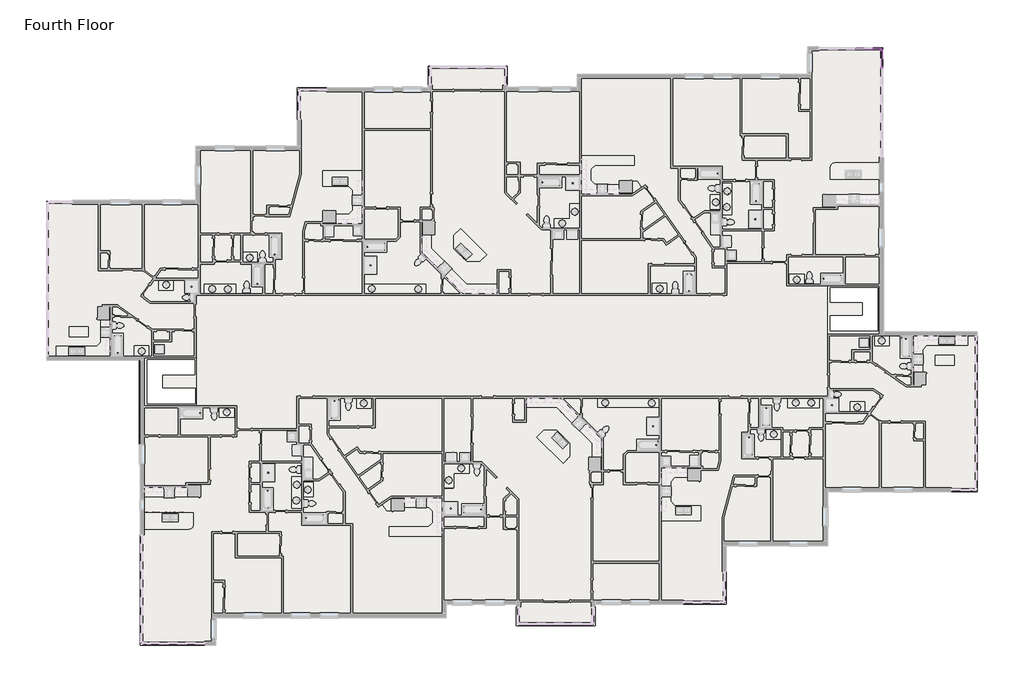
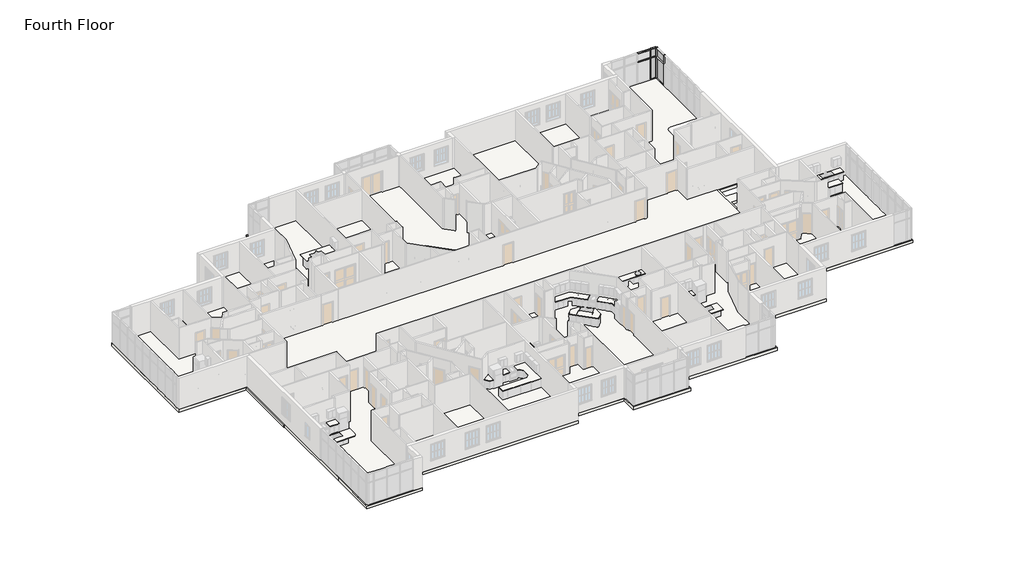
# One storey, part 13 of 17: 39 slabs, 13 members, 4 plates, 1 covering.
"""IFC4 building model written with IfcOpenShell, lengths in millimetres."""

from ifc_helpers import new_model, si_unit, point, frame, frame_2d, origin, place, context, project, spatial, polyline, circle_curve, trimmed, segment, composite_curve, outline, extrude, transform, mapped, element, save
from components import rectangular_mullion_rectangular_mullion_1_c1bf3533, rectangular_mullion_rectangular_mullion_1_fa3625a1, rectangular_mullion_rectangular_mullion_1_a50b3cda, rectangular_mullion_rectangular_mullion_1_5cd4c5ac, rectangular_mullion_rectangular_mullion_1_7cbf0b94, rectangular_mullion_rectangular_mullion_1_1da01dff, rectangular_mullion_rectangular_mullion_1_6186cc23, rectangular_mullion_rectangular_mullion_1_049a2e78, system_panel_glazed_53e6f9fb, system_panel_glazed_0e039939, system_panel_glazed_cb820e14, system_panel_glazed_5b288161

model = new_model("IFC4")

# Units and contexts
model_context = context("Model", 3, world=origin())
ifc_project = project(units=[si_unit("LENGTHUNIT", "METRE", prefix="MILLI")], contexts=[model_context])

# Site, building, storey
site = spatial("IfcSite", under=ifc_project)
building = spatial("IfcBuilding", under=site)
storey = spatial("IfcBuildingStorey", under=building, Name="Fourth Floor", Elevation=9144.0)

# Covering
placement = place(None, origin())
element("IfcCovering", 1, ObjectType="GWB on Furring", at=placement, inside=storey, context=model_context, shape_type="SweptSolid", body=[
    extrude(outline(polyline([(612.3831159, 8571.3427849), (10823.1831159, 8571.3427849), (10823.1831159, 12228.9427849), (17678.8246608, 12228.9427849), (17678.8246608, 16206.4791823), (26561.7198571, 16206.4791823), (26561.7198571, 17658.2365339), (31636.4923474, 17658.2365339), (31636.4923474, 16286.6365339), (36665.6923474, 16286.6365339), (36665.6923474, 17048.6365339), (52298.3534229, 17048.6365339), (52298.3534229, 18983.9169819), (57200.5534229, 18983.9169819), (57200.5534229, -370.8512558), (63577.7712704, -370.8512558), (63577.7712704, -10909.4129097), (53368.0217107, -10909.4129097), (53368.0217107, -14589.2379097), (46452.5922255, -14589.2379097), (46452.5922255, -18527.8691587), (37601.4470292, -18527.8691587), (37601.4470292, -20097.9066587), (32579.8565643, -20097.9066587), (32579.8565643, -18477.0691587), (27605.5115862, -18477.0691587), (27605.5115862, -19494.2615506), (11891.8009633, -19494.2615506), (11891.8009633, -21333.0996067), (7087.7956159, -21333.0996067), (7087.7956159, -1965.631369), (612.3831159, -1965.631369), (612.3831159, 8571.3427849)]), holes=[polyline([(7156.0581159, -5294.5871067), (10683.583999, -5294.5871067), (10683.583999, -1902.131369), (7156.0581159, -1902.131369), (7156.0581159, -5294.5871067)]), polyline([(53506.5703872, 2888.2544819), (53506.5703872, -370.8512558), (57019.8087704, -370.8512558), (57019.8087704, 2888.2544819), (53506.5703872, 2888.2544819)])]), frame((0.0, 0.0, 9144.0), z_axis=(0.0, 0.0, 1.0), x_axis=(1.0, 0.0, 0.0)), (0.0, 0.0, 1.0), 31.75),
])

# Members
rectangular_mullion_rectangular_mullion_1_shape = rectangular_mullion_rectangular_mullion_1_c1bf3533(model_context)
element("IfcMember", 2, ObjectType="Rectangular Mullion : Rectangular Mullion 1", at=placement, inside=storey, context=model_context, shape_type="MappedRepresentation", body=[
    mapped(rectangular_mullion_rectangular_mullion_1_shape, transform((57092.6034229, 18983.9169819, 12192.0), x_axis=(0.0, 0.0, 1.0), y_axis=(0.0, -1.0, 0.0), z_axis=(1.0, 0.0, 0.0))),
])
rectangular_mullion_rectangular_mullion_1_2_shape = rectangular_mullion_rectangular_mullion_1_fa3625a1(model_context)
element("IfcMember", 3, ObjectType="Rectangular Mullion : Rectangular Mullion 1", at=placement, inside=storey, context=model_context, shape_type="MappedRepresentation", body=[
    mapped(rectangular_mullion_rectangular_mullion_1_2_shape, transform((56571.9034233, 18983.9169819, 12192.0), x_axis=(0.0, 0.0, 1.0), y_axis=(0.0, -1.0, 0.0), z_axis=(1.0, 0.0, 0.0))),
])
element("IfcMember", 4, ObjectType="Rectangular Mullion : Rectangular Mullion 1", at=placement, inside=storey, context=model_context, shape_type="MappedRepresentation", body=[
    mapped(rectangular_mullion_rectangular_mullion_1_2_shape, transform((57175.1534229, 18875.9669819, 9144.0), x_axis=(0.0, 0.0, -1.0), y_axis=(-1.0, 0.0, 0.0), z_axis=(0.0, 1.0, 0.0))),
])
element("IfcMember", 5, ObjectType="Rectangular Mullion : Rectangular Mullion 1", at=placement, inside=storey, context=model_context, shape_type="MappedRepresentation", body=[
    mapped(rectangular_mullion_rectangular_mullion_1_shape, transform((56635.4034233, 18983.9169819, 9144.0), x_axis=(0.0, 0.0, -1.0), y_axis=(0.0, -1.0, 0.0), z_axis=(-1.0, 0.0, 0.0))),
])
rectangular_mullion_rectangular_mullion_1_3_shape = rectangular_mullion_rectangular_mullion_1_a50b3cda(model_context)
element("IfcMember", 6, ObjectType="Rectangular Mullion : Rectangular Mullion 1", at=placement, inside=storey, context=model_context, shape_type="MappedRepresentation", body=[
    mapped(rectangular_mullion_rectangular_mullion_1_3_shape, transform((57156.1034229, 18983.9169819, 9144.0), x_axis=(1.0, 0.0, 0.0), y_axis=(0.0, -1.0, 0.0), z_axis=(0.0, 0.0, -1.0))),
])
rectangular_mullion_rectangular_mullion_1_4_shape = rectangular_mullion_rectangular_mullion_1_5cd4c5ac(model_context)
element("IfcMember", 7, ObjectType="Rectangular Mullion : Rectangular Mullion 1", at=placement, inside=storey, context=model_context, shape_type="MappedRepresentation", body=[
    mapped(rectangular_mullion_rectangular_mullion_1_4_shape, transform((57156.1034229, 18983.9169819, 11309.35), x_axis=(1.0, 0.0, 0.0), y_axis=(0.0, -1.0, 0.0), z_axis=(0.0, 0.0, -1.0))),
])
element("IfcMember", 8, ObjectType="Rectangular Mullion : Rectangular Mullion 1", at=placement, inside=storey, context=model_context, shape_type="MappedRepresentation", body=[
    mapped(rectangular_mullion_rectangular_mullion_1_4_shape, transform((57175.1534229, 18939.4669819, 12192.0), x_axis=(0.0, 1.0, 0.0), y_axis=(-1.0, 0.0, 0.0), z_axis=(0.0, 0.0, 1.0))),
])
element("IfcMember", 9, ObjectType="Rectangular Mullion : Rectangular Mullion 1", at=placement, inside=storey, context=model_context, shape_type="MappedRepresentation", body=[
    mapped(rectangular_mullion_rectangular_mullion_1_3_shape, transform((57175.1534229, 18939.4669819, 11309.35), x_axis=(0.0, 1.0, 0.0), y_axis=(-1.0, 0.0, 0.0), z_axis=(0.0, 0.0, 1.0))),
])
rectangular_mullion_rectangular_mullion_1_5_shape = rectangular_mullion_rectangular_mullion_1_7cbf0b94(model_context)
element("IfcMember", 10, ObjectType="Rectangular Mullion : Rectangular Mullion 1", at=placement, inside=storey, context=model_context, shape_type="MappedRepresentation", body=[
    mapped(rectangular_mullion_rectangular_mullion_1_5_shape, transform((56571.9034233, 18983.9169819, 11309.35), x_axis=(0.0, 0.0, 1.0), y_axis=(0.0, -1.0, 0.0), z_axis=(1.0, 0.0, 0.0))),
])
rectangular_mullion_rectangular_mullion_1_6_shape = rectangular_mullion_rectangular_mullion_1_1da01dff(model_context)
element("IfcMember", 11, ObjectType="Rectangular Mullion : Rectangular Mullion 1", at=placement, inside=storey, context=model_context, shape_type="MappedRepresentation", body=[
    mapped(rectangular_mullion_rectangular_mullion_1_6_shape, transform((57092.6034229, 18983.9169819, 11309.35), x_axis=(0.0, 0.0, 1.0), y_axis=(0.0, -1.0, 0.0), z_axis=(1.0, 0.0, 0.0))),
])
rectangular_mullion_rectangular_mullion_1_7_shape = rectangular_mullion_rectangular_mullion_1_6186cc23(model_context)
element("IfcMember", 12, ObjectType="Rectangular Mullion : Rectangular Mullion 1", at=placement, inside=storey, context=model_context, shape_type="MappedRepresentation", body=[
    mapped(rectangular_mullion_rectangular_mullion_1_7_shape, transform((56603.6534233, 18983.9169819, 9144.0), x_axis=(1.0, 0.0, 0.0), y_axis=(0.0, -1.0, 0.0), z_axis=(0.0, 0.0, -1.0))),
])
rectangular_mullion_rectangular_mullion_1_8_shape = rectangular_mullion_rectangular_mullion_1_049a2e78(model_context)
element("IfcMember", 13, ObjectType="Rectangular Mullion : Rectangular Mullion 1", at=placement, inside=storey, context=model_context, shape_type="MappedRepresentation", body=[
    mapped(rectangular_mullion_rectangular_mullion_1_8_shape, transform((56603.6534233, 18983.9169819, 11309.35), x_axis=(1.0, 0.0, 0.0), y_axis=(0.0, -1.0, 0.0), z_axis=(0.0, 0.0, -1.0))),
])
element("IfcMember", 14, ObjectType="Rectangular Mullion : Rectangular Mullion 1", at=placement, inside=storey, context=model_context, shape_type="MappedRepresentation", body=[
    mapped(rectangular_mullion_rectangular_mullion_1_8_shape, transform((57175.1534229, 17688.5169816, 11309.35), x_axis=(0.0, -1.0, 0.0), y_axis=(-1.0, 0.0, 0.0), z_axis=(0.0, 0.0, -1.0))),
])

# Plates
system_panel_glazed_shape = system_panel_glazed_53e6f9fb(model_context)
element("IfcPlate", 15, ObjectType="System Panel : Glazed", at=placement, inside=storey, context=model_context, shape_type="MappedRepresentation", body=[
    mapped(system_panel_glazed_shape, transform((57175.1534229, 18298.1169818, 9207.5), x_axis=(0.0, -1.0, 0.0), y_axis=(1.0, 0.0, 0.0), z_axis=(0.0, 0.0, 1.0))),
])
system_panel_glazed_2_shape = system_panel_glazed_0e039939(model_context)
element("IfcPlate", 16, ObjectType="System Panel : Glazed", at=placement, inside=storey, context=model_context, shape_type="MappedRepresentation", body=[
    mapped(system_panel_glazed_2_shape, transform((56864.0034231, 18983.9169819, 9207.5), x_axis=(1.0, 0.0, 0.0), y_axis=(0.0, 1.0, 0.0), z_axis=(0.0, 0.0, 1.0))),
])
system_panel_glazed_3_shape = system_panel_glazed_cb820e14(model_context)
element("IfcPlate", 17, ObjectType="System Panel : Glazed", at=placement, inside=storey, context=model_context, shape_type="MappedRepresentation", body=[
    mapped(system_panel_glazed_3_shape, transform((57175.1534229, 18298.1169818, 11341.1), x_axis=(0.0, -1.0, 0.0), y_axis=(1.0, 0.0, 0.0), z_axis=(0.0, 0.0, 1.0))),
])
system_panel_glazed_4_shape = system_panel_glazed_5b288161(model_context)
element("IfcPlate", 18, ObjectType="System Panel : Glazed", at=placement, inside=storey, context=model_context, shape_type="MappedRepresentation", body=[
    mapped(system_panel_glazed_4_shape, transform((56864.0034231, 18983.9169819, 11341.1), x_axis=(1.0, 0.0, 0.0), y_axis=(0.0, 1.0, 0.0), z_axis=(0.0, 0.0, 1.0))),
])

# Slabs
element("IfcSlab", 19, ObjectType="Marble", at=placement, inside=storey, context=model_context, shape_type="SweptSolid", body=[
    extrude(outline(polyline([(50926.9744057, 3675.6544819), (51917.5744057, 3675.6544819), (51917.5744057, 3021.6044819), (50926.9744057, 3021.6044819), (50926.9744057, 3675.6544819)]), holes=[composite_curve([segment(trimmed(circle_curve(frame_2d((51422.2744057, 3320.0544819)), 203.2), [point((51219.0744057, 3320.0544819))], [point((51625.4744057, 3320.0544819))], True, "CARTESIAN"), True, "CONTINUOUS"), segment(trimmed(circle_curve(frame_2d((51422.2744057, 3320.0544819)), 203.2), [point((51625.4744057, 3320.0544819))], [point((51219.0744057, 3320.0544819))], True, "CARTESIAN"), True, "CONTINUOUS")], self_intersect=False)]), frame((0.0, 0.0, 9880.6), z_axis=(0.0, 0.0, 1.0), x_axis=(1.0, 0.0, 0.0)), (0.0, 0.0, 1.0), 38.1),
])
element("IfcSlab", 20, ObjectType="Marble", at=placement, inside=storey, context=model_context, shape_type="SweptSolid", body=[
    extrude(outline(polyline([(47019.1852525, 9841.9667096), (47019.1852525, 7708.3667096), (46371.4852525, 7708.3667096), (46371.4852525, 9841.9667096), (47019.1852525, 9841.9667096)]), holes=[composite_curve([segment(trimmed(circle_curve(frame_2d((46688.9852525, 8241.7667096)), 203.2), [point((46485.7852525, 8241.7667096))], [point((46892.1852525, 8241.7667096))], True, "CARTESIAN"), True, "CONTINUOUS"), segment(trimmed(circle_curve(frame_2d((46688.9852525, 8241.7667096)), 203.2), [point((46892.1852525, 8241.7667096))], [point((46485.7852525, 8241.7667096))], True, "CARTESIAN"), True, "CONTINUOUS")], self_intersect=False), composite_curve([segment(trimmed(circle_curve(frame_2d((46688.9852525, 9308.5667096)), 203.2), [point((46485.7852525, 9308.5667096))], [point((46892.1852525, 9308.5667096))], True, "CARTESIAN"), True, "CONTINUOUS"), segment(trimmed(circle_curve(frame_2d((46688.9852525, 9308.5667096)), 203.2), [point((46892.1852525, 9308.5667096))], [point((46485.7852525, 9308.5667096))], True, "CARTESIAN"), True, "CONTINUOUS")], self_intersect=False)]), frame((0.0, 0.0, 9880.6), z_axis=(0.0, 0.0, 1.0), x_axis=(1.0, 0.0, 0.0)), (0.0, 0.0, 1.0), 38.1),
])
element("IfcSlab", 21, ObjectType="Marble", at=placement, inside=storey, context=model_context, shape_type="SweptSolid", body=[
    extrude(outline(polyline([(37464.1178001, 10049.9225466), (37730.8178001, 9783.2225466), (37857.8178001, 9783.2225466), (37857.8178001, 9119.7410099), (36816.4178001, 9119.7410099), (36816.4178001, 11733.611548), (40399.3657184, 11733.611548), (40399.3657184, 11085.911548), (37746.5993369, 11085.911548), (37464.1178001, 10803.4300112), (37464.1178001, 10049.9225466)])), frame((0.0, 0.0, 10020.3), z_axis=(0.0, 0.0, 1.0), x_axis=(1.0, 0.0, 0.0)), (0.0, 0.0, 1.0), 38.1),
    extrude(outline(polyline([(39378.9347694, 9767.4410099), (39378.9347694, 9119.7410099), (38616.9347694, 9119.7410099), (38616.9347694, 9767.4410099), (39378.9347694, 9767.4410099)])), frame((0.0, 0.0, 10020.3), z_axis=(0.0, 0.0, 1.0), x_axis=(1.0, 0.0, 0.0)), (0.0, 0.0, 1.0), 38.1),
])
element("IfcSlab", 22, ObjectType="Marble", at=placement, inside=storey, context=model_context, shape_type="SweptSolid", body=[
    extrude(outline(polyline([(41626.0511183, 3064.2091714), (42616.6511183, 3064.2091714), (42616.6511183, 2391.1091714), (41626.0511183, 2391.1091714), (41626.0511183, 3064.2091714)]), holes=[composite_curve([segment(trimmed(circle_curve(frame_2d((42121.3511183, 2708.6091714)), 203.2), [point((41918.1511183, 2708.6091714))], [point((42324.5511183, 2708.6091714))], True, "CARTESIAN"), True, "CONTINUOUS"), segment(trimmed(circle_curve(frame_2d((42121.3511183, 2708.6091714)), 203.2), [point((42324.5511183, 2708.6091714))], [point((41918.1511183, 2708.6091714))], True, "CARTESIAN"), True, "CONTINUOUS")], self_intersect=False)]), frame((0.0, 0.0, 9880.6), z_axis=(0.0, 0.0, 1.0), x_axis=(1.0, 0.0, 0.0)), (0.0, 0.0, 1.0), 38.1),
])
element("IfcSlab", 23, ObjectType="Marble", at=placement, inside=storey, context=model_context, shape_type="SweptSolid", body=[
    extrude(outline(polyline([(34989.4572348, 6808.2918202), (34989.4572348, 7449.6418202), (36024.5072348, 7449.6418202), (36024.5072348, 8459.2918202), (36704.1794441, 8459.2918202), (36702.1178001, 6806.1559423), (34989.4572348, 6808.2918202)]), holes=[composite_curve([segment(trimmed(circle_curve(frame_2d((35526.0206512, 7126.8943672)), 203.2), [point((35729.2204932, 7126.6409544))], [point((35322.8208092, 7127.14778))], True, "CARTESIAN"), True, "CONTINUOUS"), segment(trimmed(circle_curve(frame_2d((35526.0206512, 7126.8943672)), 203.2), [point((35322.8208092, 7127.14778))], [point((35729.2204932, 7126.6409544))], True, "CARTESIAN"), True, "CONTINUOUS")], self_intersect=False), composite_curve([segment(trimmed(circle_curve(frame_2d((36367.6300654, 7922.506761)), 203.2), [point((36570.8299073, 7922.2533482))], [point((36164.4302234, 7922.7601737))], True, "CARTESIAN"), True, "CONTINUOUS"), segment(trimmed(circle_curve(frame_2d((36367.6300654, 7922.506761)), 203.2), [point((36164.4302234, 7922.7601737))], [point((36570.8299073, 7922.2533482))], True, "CARTESIAN"), True, "CONTINUOUS")], self_intersect=False)]), frame((0.0, 0.0, 9880.6), z_axis=(0.0, 0.0, 1.0), x_axis=(1.0, 0.0, 0.0)), (0.0, 0.0, 1.0), 38.1),
])
element("IfcSlab", 24, ObjectType="Marble", at=placement, inside=storey, context=model_context, shape_type="SweptSolid", body=[
    extrude(outline(polyline([(13837.7035557, 5166.0591714), (14828.3035557, 5166.0591714), (14828.3035557, 4492.9591714), (13837.7035557, 4492.9591714), (13837.7035557, 5166.0591714)]), holes=[composite_curve([segment(trimmed(circle_curve(frame_2d((14333.0035557, 4810.4591714)), 203.2), [point((14129.8035557, 4810.4591714))], [point((14536.2035557, 4810.4591714))], True, "CARTESIAN"), True, "CONTINUOUS"), segment(trimmed(circle_curve(frame_2d((14333.0035557, 4810.4591714)), 203.2), [point((14536.2035557, 4810.4591714))], [point((14129.8035557, 4810.4591714))], True, "CARTESIAN"), True, "CONTINUOUS")], self_intersect=False)]), frame((0.0, 0.0, 9880.6), z_axis=(0.0, 0.0, 1.0), x_axis=(1.0, 0.0, 0.0)), (0.0, 0.0, 1.0), 38.1),
])
element("IfcSlab", 25, ObjectType="Marble", at=placement, inside=storey, context=model_context, shape_type="SweptSolid", body=[
    extrude(outline(polyline([(6504.0261709, -1173.468869), (7494.6261709, -1173.468869), (7494.6261709, -1846.568869), (6504.0261709, -1846.568869), (6504.0261709, -1173.468869)]), holes=[composite_curve([segment(trimmed(circle_curve(frame_2d((6999.3261709, -1529.068869)), 203.2), [point((6796.1261709, -1529.068869))], [point((7202.5261708, -1529.068869))], True, "CARTESIAN"), True, "CONTINUOUS"), segment(trimmed(circle_curve(frame_2d((6999.3261709, -1529.068869)), 203.2), [point((7202.5261708, -1529.068869))], [point((6796.1261709, -1529.068869))], True, "CARTESIAN"), True, "CONTINUOUS")], self_intersect=False)]), frame((0.0, 0.0, 9880.6), z_axis=(0.0, 0.0, 1.0), x_axis=(1.0, 0.0, 0.0)), (0.0, 0.0, 1.0), 38.1),
])
element("IfcSlab", 26, ObjectType="Marble", at=placement, inside=storey, context=model_context, shape_type="SweptSolid", body=[
    extrude(outline(polyline([(9152.6629179, 2616.3624849), (8162.0629179, 2616.3624849), (8162.0629179, 3289.4624849), (9152.6629179, 3289.4624849), (9152.6629179, 2616.3624849)]), holes=[composite_curve([segment(trimmed(circle_curve(frame_2d((8657.3629179, 2971.9624849)), 203.2), [point((8860.5629179, 2971.9624849))], [point((8454.1629179, 2971.9624849))], True, "CARTESIAN"), True, "CONTINUOUS"), segment(trimmed(circle_curve(frame_2d((8657.3629179, 2971.9624849)), 203.2), [point((8454.1629179, 2971.9624849))], [point((8860.5629179, 2971.9624849))], True, "CARTESIAN"), True, "CONTINUOUS")], self_intersect=False)]), frame((0.0, 0.0, 9880.6), z_axis=(0.0, 0.0, 1.0), x_axis=(1.0, 0.0, 0.0)), (0.0, 0.0, 1.0), 38.1),
])
element("IfcSlab", 27, ObjectType="Marble", at=placement, inside=storey, context=model_context, shape_type="SweptSolid", body=[
    extrude(outline(polyline([(11250.0391694, 3007.0591714), (13383.6391694, 3007.0591714), (13383.6391694, 2359.3591714), (11250.0391694, 2359.3591714), (11250.0391694, 3007.0591714)]), holes=[composite_curve([segment(trimmed(circle_curve(frame_2d((12850.2391694, 2676.8591714)), 203.2), [point((12850.2391694, 2473.6591714))], [point((12850.2391694, 2880.0591714))], True, "CARTESIAN"), True, "CONTINUOUS"), segment(trimmed(circle_curve(frame_2d((12850.2391694, 2676.8591714)), 203.2), [point((12850.2391694, 2880.0591714))], [point((12850.2391694, 2473.6591714))], True, "CARTESIAN"), True, "CONTINUOUS")], self_intersect=False), composite_curve([segment(trimmed(circle_curve(frame_2d((11783.4391694, 2676.8591714)), 203.2), [point((11783.4391694, 2473.6591714))], [point((11783.4391694, 2880.0591714))], True, "CARTESIAN"), True, "CONTINUOUS"), segment(trimmed(circle_curve(frame_2d((11783.4391694, 2676.8591714)), 203.2), [point((11783.4391694, 2880.0591714))], [point((11783.4391694, 2473.6591714))], True, "CARTESIAN"), True, "CONTINUOUS")], self_intersect=False)]), frame((0.0, 0.0, 9880.6), z_axis=(0.0, 0.0, 1.0), x_axis=(1.0, 0.0, 0.0)), (0.0, 0.0, 1.0), 38.1),
])
element("IfcSlab", 28, ObjectType="Marble", at=placement, inside=storey, context=model_context, shape_type="SweptSolid", body=[
    extrude(outline(polyline([(45565.0352525, 8075.3578219), (45565.0352525, 9065.9578219), (46238.1352525, 9065.9578219), (46238.1352525, 8075.3578219), (45565.0352525, 8075.3578219)]), holes=[composite_curve([segment(trimmed(circle_curve(frame_2d((45920.6352525, 8570.6578219)), 203.2), [point((45920.6352525, 8367.4578219))], [point((45920.6352525, 8773.8578219))], True, "CARTESIAN"), True, "CONTINUOUS"), segment(trimmed(circle_curve(frame_2d((45920.6352525, 8570.6578219)), 203.2), [point((45920.6352525, 8773.8578219))], [point((45920.6352525, 8367.4578219))], True, "CARTESIAN"), True, "CONTINUOUS")], self_intersect=False)]), frame((0.0, 0.0, 9880.6), z_axis=(0.0, 0.0, 1.0), x_axis=(1.0, 0.0, 0.0)), (0.0, 0.0, 1.0), 38.1),
])
element("IfcSlab", 29, ObjectType="Marble", at=placement, inside=storey, context=model_context, shape_type="SweptSolid", body=[
    extrude(outline(polyline([(22080.2073571, 2360.472146), (22080.2073571, 2998.7524338), (26255.1289848, 2998.7524338), (26254.3264865, 2355.2665559), (22080.2073571, 2360.472146)]), holes=[composite_curve([segment(trimmed(circle_curve(frame_2d((25745.6467357, 2687.6122399)), 203.2), [point((25948.8465777, 2687.3588271))], [point((25542.4468937, 2687.8656527))], True, "CARTESIAN"), True, "CONTINUOUS"), segment(trimmed(circle_curve(frame_2d((25745.6467357, 2687.6122399)), 203.2), [point((25542.4468937, 2687.8656527))], [point((25948.8465777, 2687.3588271))], True, "CARTESIAN"), True, "CONTINUOUS")], self_intersect=False), composite_curve([segment(trimmed(circle_curve(frame_2d((22592.5961675, 2688.7367665)), 203.2), [point((22795.7960094, 2688.4833537))], [point((22389.3963255, 2688.9901793))], True, "CARTESIAN"), True, "CONTINUOUS"), segment(trimmed(circle_curve(frame_2d((22592.5961675, 2688.7367665)), 203.2), [point((22389.3963255, 2688.9901793))], [point((22795.7960094, 2688.4833537))], True, "CARTESIAN"), True, "CONTINUOUS")], self_intersect=False)]), frame((0.0, 0.0, 9880.6), z_axis=(0.0, 0.0, 1.0), x_axis=(1.0, 0.0, 0.0)), (0.0, 0.0, 1.0), 38.1),
])
element("IfcSlab", 30, ObjectType="Marble", at=placement, inside=storey, context=model_context, shape_type="SweptSolid", body=[
    extrude(outline(polyline([(28783.4392197, 2359.3591714), (27570.5233749, 3572.2750163), (28024.026309, 4025.7779504), (29049.0950879, 3000.7091714), (31107.0576897, 3000.7091714), (31107.0576897, 2359.3591714), (28783.4392197, 2359.3591714)])), frame((0.0, 0.0, 10020.3), z_axis=(0.0, 0.0, 1.0), x_axis=(1.0, 0.0, 0.0)), (0.0, 0.0, 1.0), 38.1),
])
element("IfcSlab", 31, ObjectType="Marble", at=placement, inside=storey, context=model_context, shape_type="SweptSolid", body=[
    extrude(outline(polyline([(28155.1545559, 6318.8980734), (28617.9568497, 6781.7003672), (30387.0673056, 5012.5899114), (29924.2650118, 4549.7876175), (29035.8578629, 4549.7876175), (28155.1545559, 5430.4909246), (28155.1545559, 6318.8980734)]), holes=[polyline([(28270.4282732, 5414.0000246), (29020.2863832, 4664.1419146), (29396.3907891, 5040.2463205), (28646.532679, 5790.1044305), (28270.4282732, 5414.0000246)])]), frame((0.0, 0.0, 10020.3), z_axis=(0.0, 0.0, 1.0), x_axis=(1.0, 0.0, 0.0)), (0.0, 0.0, 1.0), 38.1),
])
element("IfcSlab", 32, ObjectType="Marble", at=placement, inside=storey, context=model_context, shape_type="SweptSolid", body=[
    extrude(outline(polyline([(25998.6143708, 5154.0887964), (25998.6143708, 6373.2887964), (26639.9643708, 6373.2887964), (26639.9643708, 5431.1290346), (27499.5191999, 4571.5742055), (27040.3240808, 4112.3790864), (25998.6143708, 5154.0887964)])), frame((0.0, 0.0, 10020.3), z_axis=(0.0, 0.0, 1.0), x_axis=(1.0, 0.0, 0.0)), (0.0, 0.0, 1.0), 38.1),
])
element("IfcSlab", 33, ObjectType="Marble", at=placement, inside=storey, context=model_context, shape_type="SweptSolid", body=[
    extrude(outline(polyline([(2093.0864714, 129.9694727), (3375.7864714, 129.9694727), (3375.7864714, -543.1305273), (2093.0864714, -543.1305273), (2093.0864714, 129.9694727)])), frame((0.0, 0.0, 10020.3), z_axis=(0.0, 0.0, 1.0), x_axis=(1.0, 0.0, 0.0)), (0.0, 0.0, 1.0), 38.1),
])
element("IfcSlab", 34, ObjectType="Marble", at=placement, inside=storey, context=model_context, shape_type="SweptSolid", body=[
    extrude(outline(polyline([(4880.7003923, -1846.568869), (1191.3503923, -1846.568869), (1191.3503923, -1205.218869), (3957.3264687, -1205.218869), (4239.3503923, -923.1949454), (4239.3503923, -631.546226), (4880.7003923, -631.546226), (4880.7003923, -1846.568869)]), holes=[polyline([(3128.1003923, -1808.468869), (3128.1003923, -1275.068869), (2061.3003923, -1275.068869), (2061.3003923, -1808.468869), (3128.1003923, -1808.468869)])]), frame((0.0, 0.0, 10020.3), z_axis=(0.0, 0.0, 1.0), x_axis=(1.0, 0.0, 0.0)), (0.0, 0.0, 1.0), 38.1),
    extrude(outline(polyline([(4239.3503923, 131.5202225), (4239.3503923, 598.1185137), (4880.7003923, 598.1185137), (4880.7003923, 131.5202225), (4239.3503923, 131.5202225)])), frame((0.0, 0.0, 10020.3), z_axis=(0.0, 0.0, 1.0), x_axis=(1.0, 0.0, 0.0)), (0.0, 0.0, 1.0), 38.1),
])
element("IfcSlab", 35, ObjectType="Marble", at=placement, inside=storey, context=model_context, shape_type="SweptSolid", body=[
    extrude(outline(polyline([(20158.6042781, 7744.555075), (21038.3560765, 7744.555075), (21324.5573571, 8030.7563556), (21324.5573571, 8322.405075), (21972.2573571, 8322.405075), (21972.2573571, 7103.205075), (20158.6042781, 7103.205075), (20158.6042781, 7744.555075)])), frame((0.0, 0.0, 10020.3), z_axis=(0.0, 0.0, 1.0), x_axis=(1.0, 0.0, 0.0)), (0.0, 0.0, 1.0), 38.1),
    extrude(outline(polyline([(21044.7060765, 9655.905075), (19273.5073571, 9655.905075), (19273.5073571, 10697.0239484), (21972.2573571, 10697.0239484), (21972.2573571, 9084.405075), (21324.5573571, 9084.405075), (21324.5573571, 9376.0537944), (21044.7060765, 9655.905075)]), holes=[polyline([(20987.7427245, 10265.2239484), (19916.8560751, 10265.2239484), (19916.8560751, 9732.105075), (20987.7427245, 9732.105075), (20987.7427245, 10265.2239484)])]), frame((0.0, 0.0, 10020.3), z_axis=(0.0, 0.0, 1.0), x_axis=(1.0, 0.0, 0.0)), (0.0, 0.0, 1.0), 38.1),
])
element("IfcSlab", 36, ObjectType="Marble", at=placement, inside=storey, context=model_context, shape_type="SweptSolid", body=[
    extrude(outline(polyline([(40262.8543604, 10000.5110724), (40587.2272521, 10000.5110724), (40887.9989359, 9570.9645917), (40262.8543604, 9133.2336474), (40262.8543604, 10000.5110724)])), frame((0.0, 0.0, 10020.3), z_axis=(0.0, 0.0, 1.0), x_axis=(1.0, 0.0, 0.0)), (0.0, 0.0, 1.0), 38.1),
])
element("IfcSlab", 37, ObjectType="Marble", at=placement, inside=storey, context=model_context, shape_type="SweptSolid", body=[
    extrude(outline(composite_curve([segment(polyline([(7170.3456159, -12486.5347765), (10488.6061289, -12486.5347765), (10488.6061289, -13305.0808673)]), True, "CONTINUOUS"), segment(trimmed(circle_curve(frame_2d((10183.8061289, -13305.0808673)), 304.8), [point((10488.6061289, -13305.0808673))], [point((10180.1154029, -13609.8585216))], False, "CARTESIAN"), True, "CONTINUOUS"), segment(polyline([(10180.1154029, -13609.8585216), (7170.3456159, -13609.8585216), (7170.3456159, -12486.5347765)]), True, "CONTINUOUS")], self_intersect=False), holes=[polyline([(9469.7910491, -13082.6391551), (9469.7910491, -12555.3066357), (8402.0211605, -12555.3066357), (8402.0211605, -13082.6391551), (9469.7910491, -13082.6391551)])]), frame((0.0, 0.0, 10020.3), z_axis=(0.0, 0.0, 1.0), x_axis=(1.0, 0.0, 0.0)), (0.0, 0.0, 1.0), 38.1),
])
element("IfcSlab", 38, ObjectType="Marble", at=placement, inside=storey, context=model_context, shape_type="SweptSolid", body=[
    extrude(outline(polyline([(10127.0683728, -11419.8368662), (9246.0058728, -11419.8368662), (9246.0058728, -10794.1493344), (10127.0683728, -10794.1493344), (10127.0683728, -11419.8368662)])), frame((0.0, 0.0, 10020.3), z_axis=(0.0, 0.0, 1.0), x_axis=(1.0, 0.0, 0.0)), (0.0, 0.0, 1.0), 38.1),
    extrude(outline(polyline([(8484.0058728, -11419.8368662), (7175.9058728, -11419.8368662), (7175.9058728, -10772.1368662), (8484.0058728, -10772.1368662), (8484.0058728, -11419.8368662)])), frame((0.0, 0.0, 10020.3), z_axis=(0.0, 0.0, 1.0), x_axis=(1.0, 0.0, 0.0)), (0.0, 0.0, 1.0), 38.1),
])
element("IfcSlab", 39, ObjectType="Marble", at=placement, inside=storey, context=model_context, shape_type="SweptSolid", body=[
    extrude(outline(polyline([(13263.1799806, -6024.8371067), (12272.5799806, -6024.8371067), (12272.5799806, -5370.7871067), (13263.1799806, -5370.7871067), (13263.1799806, -6024.8371067)]), holes=[composite_curve([segment(trimmed(circle_curve(frame_2d((12767.8799806, -5669.2371067)), 203.2), [point((12971.0799806, -5669.2371067))], [point((12564.6799806, -5669.2371067))], True, "CARTESIAN"), True, "CONTINUOUS"), segment(trimmed(circle_curve(frame_2d((12767.8799806, -5669.2371067)), 203.2), [point((12564.6799806, -5669.2371067))], [point((12971.0799806, -5669.2371067))], True, "CARTESIAN"), True, "CONTINUOUS")], self_intersect=False)]), frame((0.0, 0.0, 9880.6), z_axis=(0.0, 0.0, 1.0), x_axis=(1.0, 0.0, 0.0)), (0.0, 0.0, 1.0), 38.1),
])
element("IfcSlab", 40, ObjectType="Marble", at=placement, inside=storey, context=model_context, shape_type="SweptSolid", body=[
    extrude(outline(polyline([(17170.9691338, -12191.1493344), (17170.9691338, -10057.5493344), (17818.6691338, -10057.5493344), (17818.6691338, -12191.1493344), (17170.9691338, -12191.1493344)]), holes=[composite_curve([segment(trimmed(circle_curve(frame_2d((17501.1691338, -10590.9493344)), 203.2), [point((17704.3691338, -10590.9493344))], [point((17297.9691338, -10590.9493344))], True, "CARTESIAN"), True, "CONTINUOUS"), segment(trimmed(circle_curve(frame_2d((17501.1691338, -10590.9493344)), 203.2), [point((17297.9691338, -10590.9493344))], [point((17704.3691338, -10590.9493344))], True, "CARTESIAN"), True, "CONTINUOUS")], self_intersect=False), composite_curve([segment(trimmed(circle_curve(frame_2d((17501.1691338, -11657.7493344)), 203.2), [point((17704.3691338, -11657.7493344))], [point((17297.9691338, -11657.7493344))], True, "CARTESIAN"), True, "CONTINUOUS"), segment(trimmed(circle_curve(frame_2d((17501.1691338, -11657.7493344)), 203.2), [point((17297.9691338, -11657.7493344))], [point((17704.3691338, -11657.7493344))], True, "CARTESIAN"), True, "CONTINUOUS")], self_intersect=False)]), frame((0.0, 0.0, 9880.6), z_axis=(0.0, 0.0, 1.0), x_axis=(1.0, 0.0, 0.0)), (0.0, 0.0, 1.0), 38.1),
])
element("IfcSlab", 41, ObjectType="Marble", at=placement, inside=storey, context=model_context, shape_type="SweptSolid", body=[
    extrude(outline(polyline([(26726.0365862, -12399.1051714), (26459.3365862, -12132.4051714), (26332.3365862, -12132.4051714), (26332.3365862, -11468.9236347), (27373.7365862, -11468.9236347), (27373.7365862, -14082.7941728), (23790.7886679, -14082.7941728), (23790.7886679, -13435.0941728), (26443.5550494, -13435.0941728), (26726.0365862, -13152.6126361), (26726.0365862, -12399.1051714)])), frame((0.0, 0.0, 10020.3), z_axis=(0.0, 0.0, 1.0), x_axis=(1.0, 0.0, 0.0)), (0.0, 0.0, 1.0), 38.1),
    extrude(outline(polyline([(24811.2196169, -12116.6236347), (24811.2196169, -11468.9236347), (25573.2196169, -11468.9236347), (25573.2196169, -12116.6236347), (24811.2196169, -12116.6236347)])), frame((0.0, 0.0, 10020.3), z_axis=(0.0, 0.0, 1.0), x_axis=(1.0, 0.0, 0.0)), (0.0, 0.0, 1.0), 38.1),
])
element("IfcSlab", 42, ObjectType="Marble", at=placement, inside=storey, context=model_context, shape_type="SweptSolid", body=[
    extrude(outline(polyline([(22564.103268, -5413.3917963), (21573.503268, -5413.3917963), (21573.503268, -4740.2917963), (22564.103268, -4740.2917963), (22564.103268, -5413.3917963)]), holes=[composite_curve([segment(trimmed(circle_curve(frame_2d((22068.803268, -5057.7917963)), 203.2), [point((22272.003268, -5057.7917963))], [point((21865.603268, -5057.7917963))], True, "CARTESIAN"), True, "CONTINUOUS"), segment(trimmed(circle_curve(frame_2d((22068.803268, -5057.7917963)), 203.2), [point((21865.603268, -5057.7917963))], [point((22272.003268, -5057.7917963))], True, "CARTESIAN"), True, "CONTINUOUS")], self_intersect=False)]), frame((0.0, 0.0, 9880.6), z_axis=(0.0, 0.0, 1.0), x_axis=(1.0, 0.0, 0.0)), (0.0, 0.0, 1.0), 38.1),
])
element("IfcSlab", 43, ObjectType="Marble", at=placement, inside=storey, context=model_context, shape_type="SweptSolid", body=[
    extrude(outline(polyline([(29200.6971515, -9157.474445), (29200.6971515, -9798.824445), (28165.6471515, -9798.824445), (28165.6471515, -10808.474445), (27485.9749422, -10808.474445), (27488.0365862, -9155.3385671), (29200.6971515, -9157.474445)]), holes=[composite_curve([segment(trimmed(circle_curve(frame_2d((28664.1337351, -9476.076992)), 203.2), [point((28460.9338931, -9475.8235793))], [point((28867.3335771, -9476.3304048))], True, "CARTESIAN"), True, "CONTINUOUS"), segment(trimmed(circle_curve(frame_2d((28664.1337351, -9476.076992)), 203.2), [point((28867.3335771, -9476.3304048))], [point((28460.9338931, -9475.8235793))], True, "CARTESIAN"), True, "CONTINUOUS")], self_intersect=False), composite_curve([segment(trimmed(circle_curve(frame_2d((27822.5243209, -10271.6893858)), 203.2), [point((27619.324479, -10271.435973))], [point((28025.7241629, -10271.9427985))], True, "CARTESIAN"), True, "CONTINUOUS"), segment(trimmed(circle_curve(frame_2d((27822.5243209, -10271.6893858)), 203.2), [point((28025.7241629, -10271.9427985))], [point((27619.324479, -10271.435973))], True, "CARTESIAN"), True, "CONTINUOUS")], self_intersect=False)]), frame((0.0, 0.0, 9880.6), z_axis=(0.0, 0.0, 1.0), x_axis=(1.0, 0.0, 0.0)), (0.0, 0.0, 1.0), 38.1),
])
element("IfcSlab", 44, ObjectType="Marble", at=placement, inside=storey, context=model_context, shape_type="SweptSolid", body=[
    extrude(outline(polyline([(50352.4508306, -7515.2417963), (49361.8508306, -7515.2417963), (49361.8508306, -6842.1417963), (50352.4508306, -6842.1417963), (50352.4508306, -7515.2417963)]), holes=[composite_curve([segment(trimmed(circle_curve(frame_2d((49857.1508306, -7159.6417963)), 203.2), [point((50060.3508306, -7159.6417963))], [point((49653.9508306, -7159.6417963))], True, "CARTESIAN"), True, "CONTINUOUS"), segment(trimmed(circle_curve(frame_2d((49857.1508306, -7159.6417963)), 203.2), [point((49653.9508306, -7159.6417963))], [point((50060.3508306, -7159.6417963))], True, "CARTESIAN"), True, "CONTINUOUS")], self_intersect=False)]), frame((0.0, 0.0, 9880.6), z_axis=(0.0, 0.0, 1.0), x_axis=(1.0, 0.0, 0.0)), (0.0, 0.0, 1.0), 38.1),
])
element("IfcSlab", 45, ObjectType="Marble", at=placement, inside=storey, context=model_context, shape_type="SweptSolid", body=[
    extrude(outline(polyline([(57686.1282154, -1175.7137558), (56695.5282154, -1175.7137558), (56695.5282154, -485.1512558), (57686.1282154, -485.1512558), (57686.1282154, -1175.7137558)]), holes=[composite_curve([segment(trimmed(circle_curve(frame_2d((57190.8282154, -820.1137558)), 203.2), [point((57394.0282154, -820.1137558))], [point((56987.6282154, -820.1137558))], True, "CARTESIAN"), True, "CONTINUOUS"), segment(trimmed(circle_curve(frame_2d((57190.8282154, -820.1137558)), 203.2), [point((56987.6282154, -820.1137558))], [point((57394.0282154, -820.1137558))], True, "CARTESIAN"), True, "CONTINUOUS")], self_intersect=False)]), frame((0.0, 0.0, 9880.6), z_axis=(0.0, 0.0, 1.0), x_axis=(1.0, 0.0, 0.0)), (0.0, 0.0, 1.0), 38.1),
])
element("IfcSlab", 46, ObjectType="Marble", at=placement, inside=storey, context=model_context, shape_type="SweptSolid", body=[
    extrude(outline(polyline([(55037.4914684, -4965.5451097), (56028.0914684, -4965.5451097), (56028.0914684, -5638.6451097), (55037.4914684, -5638.6451097), (55037.4914684, -4965.5451097)]), holes=[composite_curve([segment(trimmed(circle_curve(frame_2d((55532.7914684, -5321.1451097)), 203.2), [point((55329.5914684, -5321.1451097))], [point((55735.9914684, -5321.1451097))], True, "CARTESIAN"), True, "CONTINUOUS"), segment(trimmed(circle_curve(frame_2d((55532.7914684, -5321.1451097)), 203.2), [point((55735.9914684, -5321.1451097))], [point((55329.5914684, -5321.1451097))], True, "CARTESIAN"), True, "CONTINUOUS")], self_intersect=False)]), frame((0.0, 0.0, 9880.6), z_axis=(0.0, 0.0, 1.0), x_axis=(1.0, 0.0, 0.0)), (0.0, 0.0, 1.0), 38.1),
])
element("IfcSlab", 47, ObjectType="Marble", at=placement, inside=storey, context=model_context, shape_type="SweptSolid", body=[
    extrude(outline(polyline([(52940.1152169, -5356.2417963), (50806.5152169, -5356.2417963), (50806.5152169, -4708.5417963), (52940.1152169, -4708.5417963), (52940.1152169, -5356.2417963)]), holes=[composite_curve([segment(trimmed(circle_curve(frame_2d((51339.9152169, -5026.0417963)), 203.2), [point((51339.9152169, -4822.8417963))], [point((51339.9152169, -5229.2417963))], True, "CARTESIAN"), True, "CONTINUOUS"), segment(trimmed(circle_curve(frame_2d((51339.9152169, -5026.0417963)), 203.2), [point((51339.9152169, -5229.2417963))], [point((51339.9152169, -4822.8417963))], True, "CARTESIAN"), True, "CONTINUOUS")], self_intersect=False), composite_curve([segment(trimmed(circle_curve(frame_2d((52406.7152169, -5026.0417963)), 203.2), [point((52406.7152169, -4822.8417963))], [point((52406.7152169, -5229.2417963))], True, "CARTESIAN"), True, "CONTINUOUS"), segment(trimmed(circle_curve(frame_2d((52406.7152169, -5026.0417963)), 203.2), [point((52406.7152169, -5229.2417963))], [point((52406.7152169, -4822.8417963))], True, "CARTESIAN"), True, "CONTINUOUS")], self_intersect=False)]), frame((0.0, 0.0, 9880.6), z_axis=(0.0, 0.0, 1.0), x_axis=(1.0, 0.0, 0.0)), (0.0, 0.0, 1.0), 38.1),
])
element("IfcSlab", 48, ObjectType="Marble", at=placement, inside=storey, context=model_context, shape_type="SweptSolid", body=[
    extrude(outline(polyline([(18625.1191338, -10424.5404467), (18625.1191338, -11415.1404467), (17952.0191338, -11415.1404467), (17952.0191338, -10424.5404467), (18625.1191338, -10424.5404467)]), holes=[composite_curve([segment(trimmed(circle_curve(frame_2d((18269.5191338, -10919.8404467)), 203.2), [point((18269.5191338, -10716.6404467))], [point((18269.5191338, -11123.0404467))], True, "CARTESIAN"), True, "CONTINUOUS"), segment(trimmed(circle_curve(frame_2d((18269.5191338, -10919.8404467)), 203.2), [point((18269.5191338, -11123.0404467))], [point((18269.5191338, -10716.6404467))], True, "CARTESIAN"), True, "CONTINUOUS")], self_intersect=False)]), frame((0.0, 0.0, 9880.6), z_axis=(0.0, 0.0, 1.0), x_axis=(1.0, 0.0, 0.0)), (0.0, 0.0, 1.0), 38.1),
])
element("IfcSlab", 49, ObjectType="Marble", at=placement, inside=storey, context=model_context, shape_type="SweptSolid", body=[
    extrude(outline(polyline([(42109.9470292, -4709.6547708), (42109.9470292, -5347.9350586), (37935.0254015, -5347.9350586), (37935.8278998, -4704.4491807), (42109.9470292, -4709.6547708)]), holes=[composite_curve([segment(trimmed(circle_curve(frame_2d((38444.5076506, -5036.7948647)), 203.2), [point((38241.3078086, -5036.541452))], [point((38647.7074926, -5037.0482775))], True, "CARTESIAN"), True, "CONTINUOUS"), segment(trimmed(circle_curve(frame_2d((38444.5076506, -5036.7948647)), 203.2), [point((38647.7074926, -5037.0482775))], [point((38241.3078086, -5036.541452))], True, "CARTESIAN"), True, "CONTINUOUS")], self_intersect=False), composite_curve([segment(trimmed(circle_curve(frame_2d((41597.5582188, -5037.9193913)), 203.2), [point((41394.3583769, -5037.6659786))], [point((41800.7580608, -5038.1728041))], True, "CARTESIAN"), True, "CONTINUOUS"), segment(trimmed(circle_curve(frame_2d((41597.5582188, -5037.9193913)), 203.2), [point((41800.7580608, -5038.1728041))], [point((41394.3583769, -5037.6659786))], True, "CARTESIAN"), True, "CONTINUOUS")], self_intersect=False)]), frame((0.0, 0.0, 9880.6), z_axis=(0.0, 0.0, 1.0), x_axis=(1.0, 0.0, 0.0)), (0.0, 0.0, 1.0), 38.1),
])
element("IfcSlab", 50, ObjectType="Marble", at=placement, inside=storey, context=model_context, shape_type="SweptSolid", body=[
    extrude(outline(polyline([(35406.7151666, -4708.5417963), (36619.6310114, -5921.4576411), (36166.1280773, -6374.9605752), (35141.0592984, -5349.8917963), (33083.0966966, -5349.8917963), (33083.0966966, -4708.5417963), (35406.7151666, -4708.5417963)])), frame((0.0, 0.0, 10020.3), z_axis=(0.0, 0.0, 1.0), x_axis=(1.0, 0.0, 0.0)), (0.0, 0.0, 1.0), 38.1),
])
element("IfcSlab", 51, ObjectType="Marble", at=placement, inside=storey, context=model_context, shape_type="SweptSolid", body=[
    extrude(outline(polyline([(36034.9998304, -8668.0806982), (35572.1975365, -9130.882992), (33803.0870807, -7361.7725362), (34265.8893745, -6898.9702424), (35154.2965233, -6898.9702424), (36034.9998304, -7779.6735494), (36034.9998304, -8668.0806982)]), holes=[polyline([(35919.7261131, -7763.1826495), (35169.8680031, -7013.3245394), (34793.7635972, -7389.4289453), (35543.6217072, -8139.2870553), (35919.7261131, -7763.1826495)])]), frame((0.0, 0.0, 10020.3), z_axis=(0.0, 0.0, 1.0), x_axis=(1.0, 0.0, 0.0)), (0.0, 0.0, 1.0), 38.1),
])
element("IfcSlab", 52, ObjectType="Marble", at=placement, inside=storey, context=model_context, shape_type="SweptSolid", body=[
    extrude(outline(polyline([(38191.5400155, -7503.2714212), (38191.5400155, -8722.4714212), (37550.1900155, -8722.4714212), (37550.1900155, -7780.3116594), (36690.6351864, -6920.7568303), (37149.8303055, -6461.5617112), (38191.5400155, -7503.2714212)])), frame((0.0, 0.0, 10020.3), z_axis=(0.0, 0.0, 1.0), x_axis=(1.0, 0.0, 0.0)), (0.0, 0.0, 1.0), 38.1),
])
element("IfcSlab", 53, ObjectType="Marble", at=placement, inside=storey, context=model_context, shape_type="SweptSolid", body=[
    extrude(outline(polyline([(62097.0679149, -2479.1520975), (60814.3679149, -2479.1520975), (60814.3679149, -1806.0520975), (62097.0679149, -1806.0520975), (62097.0679149, -2479.1520975)])), frame((0.0, 0.0, 10020.3), z_axis=(0.0, 0.0, 1.0), x_axis=(1.0, 0.0, 0.0)), (0.0, 0.0, 1.0), 38.1),
])
element("IfcSlab", 54, ObjectType="Marble", at=placement, inside=storey, context=model_context, shape_type="SweptSolid", body=[
    extrude(outline(polyline([(59309.453994, -485.1512558), (62998.803994, -485.1512558), (62998.803994, -1143.9637558), (60232.8279176, -1143.9637558), (59950.803994, -1425.9876794), (59950.803994, -1717.6363988), (59309.453994, -1717.6363988), (59309.453994, -485.1512558)]), holes=[polyline([(61062.053994, -540.7137558), (61062.053994, -1074.1137558), (62128.853994, -1074.1137558), (62128.853994, -540.7137558), (61062.053994, -540.7137558)])]), frame((0.0, 0.0, 10020.3), z_axis=(0.0, 0.0, 1.0), x_axis=(1.0, 0.0, 0.0)), (0.0, 0.0, 1.0), 38.1),
    extrude(outline(polyline([(59950.803994, -2480.7028474), (59950.803994, -2947.3011385), (59309.453994, -2947.3011385), (59309.453994, -2480.7028474), (59950.803994, -2480.7028474)])), frame((0.0, 0.0, 10020.3), z_axis=(0.0, 0.0, 1.0), x_axis=(1.0, 0.0, 0.0)), (0.0, 0.0, 1.0), 38.1),
])
element("IfcSlab", 55, ObjectType="Marble", at=placement, inside=storey, context=model_context, shape_type="SweptSolid", body=[
    extrude(outline(polyline([(44031.5501082, -10093.7376998), (43151.7983098, -10093.7376998), (42865.5970292, -10379.9389804), (42865.5970292, -10671.5876998), (42217.8970292, -10671.5876998), (42217.8970292, -9452.3876998), (44031.5501082, -9452.3876998), (44031.5501082, -10093.7376998)])), frame((0.0, 0.0, 10020.3), z_axis=(0.0, 0.0, 1.0), x_axis=(1.0, 0.0, 0.0)), (0.0, 0.0, 1.0), 38.1),
    extrude(outline(polyline([(43145.4483098, -12005.0876998), (44916.6470292, -12005.0876998), (44916.6470292, -13046.2065732), (42217.8970292, -13046.2065732), (42217.8970292, -11433.5876998), (42865.5970292, -11433.5876998), (42865.5970292, -11725.2364192), (43145.4483098, -12005.0876998)]), holes=[polyline([(43202.4116618, -12614.4065732), (44273.2983112, -12614.4065732), (44273.2983112, -12081.2876998), (43202.4116618, -12081.2876998), (43202.4116618, -12614.4065732)])]), frame((0.0, 0.0, 10020.3), z_axis=(0.0, 0.0, 1.0), x_axis=(1.0, 0.0, 0.0)), (0.0, 0.0, 1.0), 38.1),
])
element("IfcSlab", 56, ObjectType="Marble", at=placement, inside=storey, context=model_context, shape_type="SweptSolid", body=[
    extrude(outline(polyline([(23927.3000259, -12349.6936972), (23602.9271341, -12349.6936972), (23302.1554503, -11920.1472165), (23927.3000259, -11482.4162723), (23927.3000259, -12349.6936972)])), frame((0.0, 0.0, 10020.3), z_axis=(0.0, 0.0, 1.0), x_axis=(1.0, 0.0, 0.0)), (0.0, 0.0, 1.0), 38.1),
])
element("IfcSlab", 57, ObjectType="Wood Joist 10\" - Wood Finish", at=placement, inside=storey, context=model_context, shape_type="SweptSolid", body=[
    extrude(outline(polyline([(6887.7706159, -21474.3871067), (6887.7706159, -16921.6996859), (6887.7706159, -8223.7871859), (6821.0956159, -8223.7871859), (6821.0956159, -2146.606369), (547.2956159, -2146.606369), (547.2956159, 8643.631131), (2288.7831159, 8643.631131), (2288.7831159, 8712.6302849), (10681.8956159, 8712.6302849), (10681.8956159, 12370.2302849), (17537.5371608, 12370.2302849), (17537.5371608, 16347.7666823), (26420.4323571, 16347.7666823), (26420.4323571, 17799.5240339), (31777.7798474, 17799.5240339), (31777.7798474, 16359.6615339), (36533.8428001, 16359.6615339), (36533.8428001, 17246.6789258), (52157.0659229, 17246.6789258), (52157.0659229, 19125.2044819), (52914.3034229, 19125.2044819), (52914.3034229, 19047.4169819), (57238.6534229, 19047.4169819), (57238.6534229, 11632.2044819), (57302.3837704, 11632.2044819), (57302.3837704, -202.5762558), (63673.0212704, -202.5762558), (63673.0212704, -3449.276335), (63673.0212704, -11061.8129097), (53508.2587704, -11061.8129097), (53508.2587704, -14719.4129097), (46652.6172255, -14719.4129097), (46652.6172255, -18696.9493072), (37769.7220292, -18696.9493072), (37769.7220292, -20148.7066587), (32412.3745389, -20148.7066587), (32412.3745389, -18708.8441587), (27656.3115862, -18708.8441587), (27656.3115862, -19595.8615506), (12033.0884633, -19595.8615506), (12033.0884633, -21474.3871067), (6887.7706159, -21474.3871067)]), holes=[polyline([(10607.383999, -2106.918869), (7360.8456159, -2106.918869), (7360.8456159, -5085.0371067), (10620.083999, -5085.0371067), (10620.083999, -4062.718869), (8397.583999, -4062.718869), (8397.583999, -3122.918869), (10607.383999, -3122.918869), (10607.383999, -2106.918869)]), polyline([(53698.8646836, -151.7762558), (56905.5087704, -151.7762558), (56905.5087704, 2761.2544819), (53698.8646836, 2761.2544819), (53698.8646836, 1770.6544819), (55883.2646836, 1770.6544819), (55883.2646836, 856.2544819), (53698.8646836, 856.2544819), (53698.8646836, -151.7762558)])]), frame((0.0, 0.0, 8870.95), z_axis=(0.0, 0.0, 1.0), x_axis=(1.0, 0.0, 0.0)), (0.0, 0.0, 1.0), 273.05),
])

save(model, "model.ifc")
